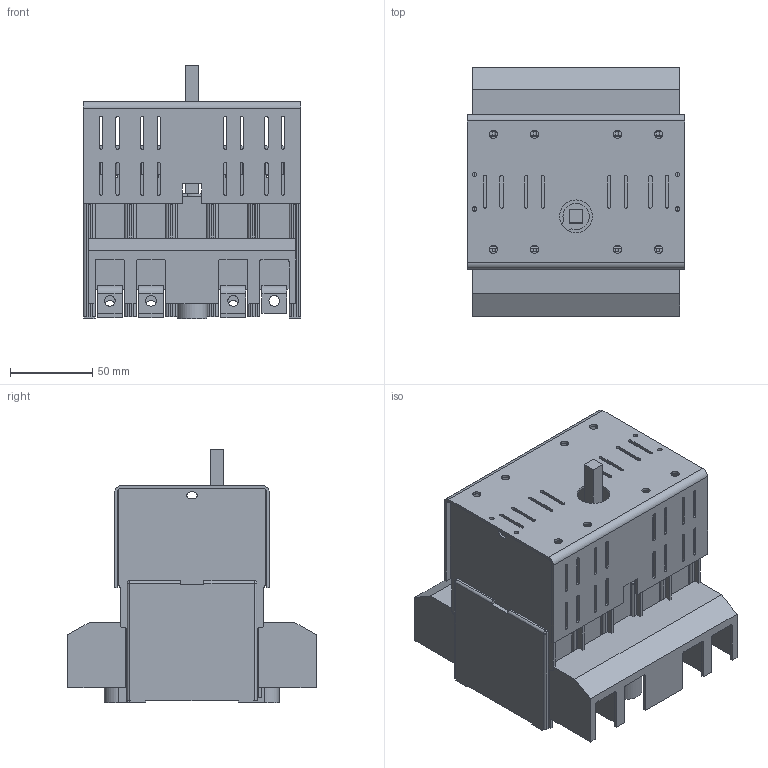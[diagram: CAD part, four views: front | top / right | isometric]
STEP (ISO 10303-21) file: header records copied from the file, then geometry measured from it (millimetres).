
FILE_DESCRIPTION(/* description */ (''),/* implementation_level */ '2;1');
FILE_NAME(/* name */ 'RAB 000 P3 NC, P4 C z oslona zaciskow.stp',/* time_stamp */ '2021-08-19T10:48:43+02:00',/* author */ (''),/* organization */ (''),/* preprocessor_version */ 'ST-DEVELOPER v18.1',/* originating_system */ 'SIEMENS PLM Software NX 1965',/* authorisation */ '');
FILE_SCHEMA (('AUTOMOTIVE_DESIGN { 1 0 10303 214 3 1 1 1 }'));
Length unit declared in the file: millimetre
Products named in the file (1): RAB 000 P3 NC, P4 C z oslona zaciskow_stp
Bounding box: 132.5 x 151.03 x 154 mm (x, y, z)
Volume: 771387.9 mm3; surface area: 260886.2 mm2
Topology: 1 solids, 1 shells, 1274 faces, 3691 edges, 2383 vertices
Faces by surface type: plane 854, cylinder 396, sphere 23, bspline 1
Full cylindrical faces by diameter (mm): 2.7 x4, 5 x8, 5.8 x2, 6.5 x8, 10 x2, 11.5 x2, 20 x1
Entity records: 41656 total; most frequent: CARTESIAN_POINT 7656, ORIENTED_EDGE 7252, DIRECTION 6846, EDGE_CURVE 3626, LINE 2740, VECTOR 2740, VERTEX_POINT 2369, AXIS2_PLACEMENT_3D 2053
